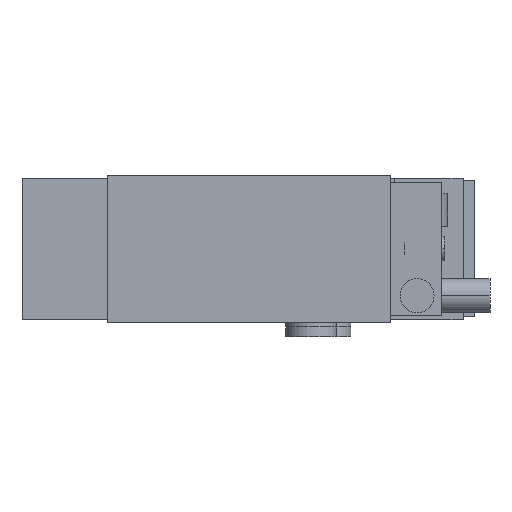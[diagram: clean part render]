
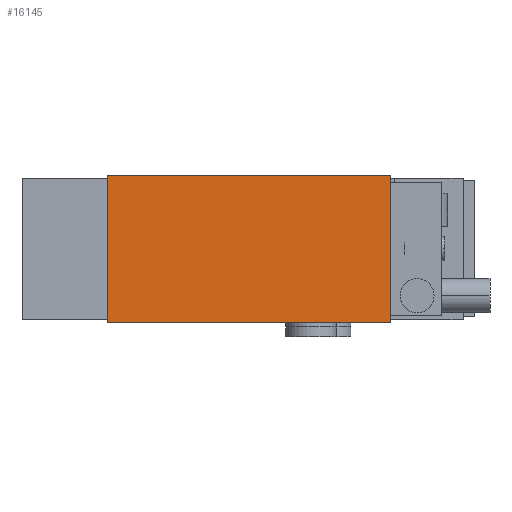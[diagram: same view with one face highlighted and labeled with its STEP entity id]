
A CAD part, front view. The second image highlights one B-rep face of the part: STEP entity #16145.
In plain terms, the highlighted planar face has unit normal (0, -1, 0).
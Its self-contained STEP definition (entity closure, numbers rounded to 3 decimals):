
#374 = ORIENTED_EDGE ( 'NONE', *, *, #41753, .T. ) ;
#2208 = PLANE ( 'NONE',  #42421 ) ;
#2650 = VECTOR ( 'NONE', #40008, 1000. ) ;
#4564 = ORIENTED_EDGE ( 'NONE', *, *, #28946, .T. ) ;
#9005 = CARTESIAN_POINT ( 'NONE',  ( -25., -188.7, -26. ) ) ;
#9622 = CARTESIAN_POINT ( 'NONE',  ( 75., -188.7, -26. ) ) ;
#9705 = VERTEX_POINT ( 'NONE', #9622 ) ;
#13450 = VECTOR ( 'NONE', #38834, 1000. ) ;
#16044 = DIRECTION ( 'NONE',  ( 0., 0., -1. ) ) ;
#16145 = ADVANCED_FACE ( 'NONE', ( #16544 ), #2208, .T. ) ;
#16445 = VERTEX_POINT ( 'NONE', #20835 ) ;
#16544 = FACE_OUTER_BOUND ( 'NONE', #43798, .T. ) ;
#17397 = CARTESIAN_POINT ( 'NONE',  ( 75., -188.7, 26. ) ) ;
#17652 = ORIENTED_EDGE ( 'NONE', *, *, #27180, .T. ) ;
#19035 = CARTESIAN_POINT ( 'NONE',  ( -25., -188.7, 26. ) ) ;
#20835 = CARTESIAN_POINT ( 'NONE',  ( 75., -188.7, 26. ) ) ;
#21773 = ORIENTED_EDGE ( 'NONE', *, *, #43547, .T. ) ;
#23189 = DIRECTION ( 'NONE',  ( 0., -1., 0. ) ) ;
#23421 = CARTESIAN_POINT ( 'NONE',  ( 0., -188.7, 0. ) ) ;
#24487 = LINE ( 'NONE', #17397, #35213 ) ;
#24875 = CARTESIAN_POINT ( 'NONE',  ( -25., -188.7, 26. ) ) ;
#26277 = LINE ( 'NONE', #9005, #2650 ) ;
#27180 = EDGE_CURVE ( 'NONE', #41819, #9705, #26277, .T. ) ;
#28946 = EDGE_CURVE ( 'NONE', #43455, #41819, #40766, .T. ) ;
#30510 = DIRECTION ( 'NONE',  ( 0., 0., -1. ) ) ;
#30788 = VECTOR ( 'NONE', #16044, 1000. ) ;
#30839 = CARTESIAN_POINT ( 'NONE',  ( -25., -188.7, 26. ) ) ;
#34097 = CARTESIAN_POINT ( 'NONE',  ( -25., -188.7, -26. ) ) ;
#35213 = VECTOR ( 'NONE', #38461, 1000. ) ;
#38156 = LINE ( 'NONE', #24875, #13450 ) ;
#38461 = DIRECTION ( 'NONE',  ( 0., 0., 1. ) ) ;
#38834 = DIRECTION ( 'NONE',  ( -1., 0., 0. ) ) ;
#40008 = DIRECTION ( 'NONE',  ( 1., 0., 0. ) ) ;
#40766 = LINE ( 'NONE', #19035, #30788 ) ;
#41753 = EDGE_CURVE ( 'NONE', #9705, #16445, #24487, .T. ) ;
#41819 = VERTEX_POINT ( 'NONE', #34097 ) ;
#42421 = AXIS2_PLACEMENT_3D ( 'NONE', #23421, #23189, #30510 ) ;
#43455 = VERTEX_POINT ( 'NONE', #30839 ) ;
#43547 = EDGE_CURVE ( 'NONE', #16445, #43455, #38156, .T. ) ;
#43798 = EDGE_LOOP ( 'NONE', ( #4564, #17652, #374, #21773 ) ) ;
